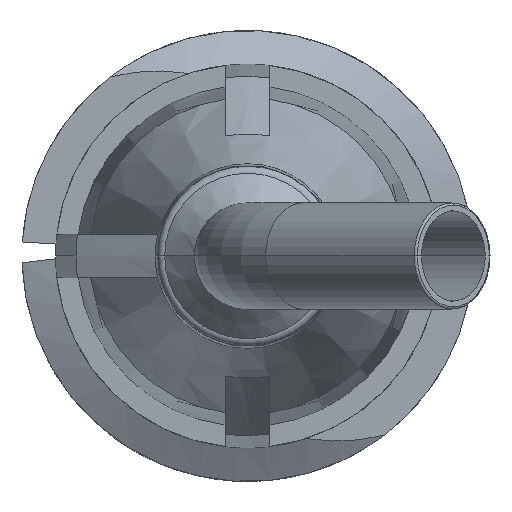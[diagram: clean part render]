
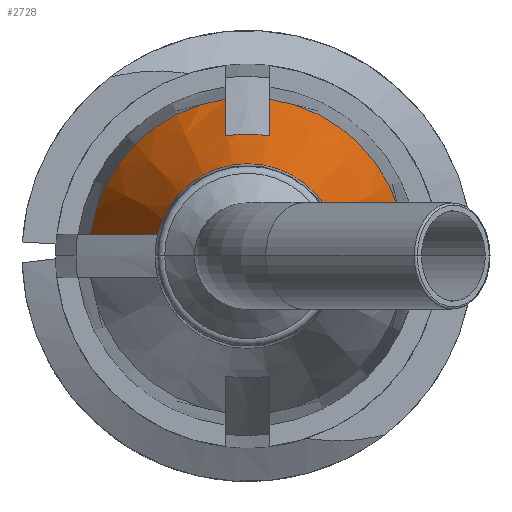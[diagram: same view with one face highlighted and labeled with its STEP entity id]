
A CAD part, front view. The second image highlights one B-rep face of the part: STEP entity #2728.
In plain terms, the highlighted conical face has half-angle 20 degrees and reference radius 2.745 mm.
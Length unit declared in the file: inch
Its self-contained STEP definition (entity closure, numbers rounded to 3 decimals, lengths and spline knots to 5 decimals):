
#2 = CARTESIAN_POINT ( 'NONE',  ( -0.09185, -0.44732, 0.015 ) ) ;
#41 = VERTEX_POINT ( 'NONE', #56 ) ;
#49 = EDGE_CURVE ( 'NONE', #627, #2486, #4468, .T. ) ;
#56 = CARTESIAN_POINT ( 'NONE',  ( -0.10703, -0.406, 0.015 ) ) ;
#278 = EDGE_CURVE ( 'NONE', #4648, #941, #4501, .T. ) ;
#364 = EDGE_CURVE ( 'NONE', #3518, #941, #4159, .T. ) ;
#366 = AXIS2_PLACEMENT_3D ( 'NONE', #4537, #3057, #1595 ) ;
#444 = CARTESIAN_POINT ( 'NONE',  ( -0.07664, -0.48863, 0.015 ) ) ;
#499 = VERTEX_POINT ( 'NONE', #3287 ) ;
#531 = CARTESIAN_POINT ( 'NONE',  ( 0.06119, -0.52985, 0.015 ) ) ;
#605 = CARTESIAN_POINT ( 'NONE',  ( 0., -0.52985, 0. ) ) ;
#627 = VERTEX_POINT ( 'NONE', #3384 ) ;
#699 = EDGE_CURVE ( 'NONE', #3763, #627, #4324, .T. ) ;
#710 = CARTESIAN_POINT ( 'NONE',  ( 0.015, -0.42866, 0.0987 ) ) ;
#714 = CARTESIAN_POINT ( 'NONE',  ( 0., -0.406, 0. ) ) ;
#734 = CARTESIAN_POINT ( 'NONE',  ( -0.015, -0.45131, 0.09036 ) ) ;
#739 = DIRECTION ( 'NONE',  ( -1., 0., 0. ) ) ;
#757 = CARTESIAN_POINT ( 'NONE',  ( -0.015, -0.42866, 0.0987 ) ) ;
#855 = AXIS2_PLACEMENT_3D ( 'NONE', #714, #4312, #739 ) ;
#925 = CONICAL_SURFACE ( 'NONE', #855, 0.10808, 0.349 ) ;
#941 = VERTEX_POINT ( 'NONE', #2553 ) ;
#1064 = AXIS2_PLACEMENT_3D ( 'NONE', #1917, #2269, #4513 ) ;
#1271 = ORIENTED_EDGE ( 'NONE', *, *, #2526, .F. ) ;
#1355 = B_SPLINE_CURVE_WITH_KNOTS ( 'NONE', 3,
 ( #1575, #444, #2, #4047 ),
 .UNSPECIFIED., .F., .F.,
 ( 4, 4 ),
 ( 0.00282, 0.00617 ),
 .UNSPECIFIED. ) ;
#1427 = ORIENTED_EDGE ( 'NONE', *, *, #699, .F. ) ;
#1575 = CARTESIAN_POINT ( 'NONE',  ( -0.06119, -0.52985, 0.015 ) ) ;
#1595 = DIRECTION ( 'NONE',  ( -1., 0., 0. ) ) ;
#1618 = CARTESIAN_POINT ( 'NONE',  ( 0.07664, -0.48863, 0.015 ) ) ;
#1638 = CARTESIAN_POINT ( 'NONE',  ( 0.09185, -0.44732, 0.015 ) ) ;
#1747 = CIRCLE ( 'NONE', #1064, 0.10808 ) ;
#1828 = CARTESIAN_POINT ( 'NONE',  ( 0.015, -0.406, 0.10703 ) ) ;
#1867 = B_SPLINE_CURVE_WITH_KNOTS ( 'NONE', 3,
 ( #2765, #4215, #710, #3601 ),
 .UNSPECIFIED., .F., .F.,
 ( 4, 4 ),
 ( 0.00247, 0.00431 ),
 .UNSPECIFIED. ) ;
#1917 = CARTESIAN_POINT ( 'NONE',  ( 0., -0.406, 0. ) ) ;
#2013 = ORIENTED_EDGE ( 'NONE', *, *, #4495, .F. ) ;
#2269 = DIRECTION ( 'NONE',  ( 0., 1., 0. ) ) ;
#2469 = ORIENTED_EDGE ( 'NONE', *, *, #4362, .F. ) ;
#2486 = VERTEX_POINT ( 'NONE', #4530 ) ;
#2526 = EDGE_CURVE ( 'NONE', #41, #3763, #1747, .T. ) ;
#2553 = CARTESIAN_POINT ( 'NONE',  ( 0.10703, -0.406, 0.015 ) ) ;
#2681 = DIRECTION ( 'NONE',  ( 0., 1., 0. ) ) ;
#2728 = ADVANCED_FACE ( 'NONE', ( #4681 ), #925, .T. ) ;
#2753 = CIRCLE ( 'NONE', #4122, 0.063 ) ;
#2765 = CARTESIAN_POINT ( 'NONE',  ( 0.015, -0.47395, 0.08198 ) ) ;
#2789 = ORIENTED_EDGE ( 'NONE', *, *, #4547, .T. ) ;
#2965 = CARTESIAN_POINT ( 'NONE',  ( -0.015, -0.406, 0.10703 ) ) ;
#3042 = DIRECTION ( 'NONE',  ( 1., 0., 0. ) ) ;
#3057 = DIRECTION ( 'NONE',  ( 0., 1., 0. ) ) ;
#3287 = CARTESIAN_POINT ( 'NONE',  ( -0.06119, -0.52985, 0.015 ) ) ;
#3349 = ORIENTED_EDGE ( 'NONE', *, *, #278, .T. ) ;
#3384 = CARTESIAN_POINT ( 'NONE',  ( -0.015, -0.47395, 0.08198 ) ) ;
#3518 = VERTEX_POINT ( 'NONE', #1828 ) ;
#3601 = CARTESIAN_POINT ( 'NONE',  ( 0.015, -0.406, 0.10703 ) ) ;
#3688 = CARTESIAN_POINT ( 'NONE',  ( 0., -0.47395, 0. ) ) ;
#3763 = VERTEX_POINT ( 'NONE', #2965 ) ;
#3772 = CARTESIAN_POINT ( 'NONE',  ( 0.10703, -0.406, 0.015 ) ) ;
#3815 = ORIENTED_EDGE ( 'NONE', *, *, #49, .F. ) ;
#3830 = CARTESIAN_POINT ( 'NONE',  ( -0.015, -0.406, 0.10703 ) ) ;
#3929 = CARTESIAN_POINT ( 'NONE',  ( 0.06119, -0.52985, 0.015 ) ) ;
#4047 = CARTESIAN_POINT ( 'NONE',  ( -0.10703, -0.406, 0.015 ) ) ;
#4122 = AXIS2_PLACEMENT_3D ( 'NONE', #605, #2681, #4160 ) ;
#4155 = AXIS2_PLACEMENT_3D ( 'NONE', #3688, #4508, #3042 ) ;
#4159 = CIRCLE ( 'NONE', #366, 0.10808 ) ;
#4160 = DIRECTION ( 'NONE',  ( -1., 0., 0. ) ) ;
#4215 = CARTESIAN_POINT ( 'NONE',  ( 0.015, -0.45131, 0.09036 ) ) ;
#4279 = ORIENTED_EDGE ( 'NONE', *, *, #364, .F. ) ;
#4301 = EDGE_LOOP ( 'NONE', ( #2013, #2789, #3349, #4279, #2469, #3815, #1427, #1271 ) ) ;
#4312 = DIRECTION ( 'NONE',  ( 0., 1., 0. ) ) ;
#4324 = B_SPLINE_CURVE_WITH_KNOTS ( 'NONE', 3,
 ( #3830, #757, #734, #4595 ),
 .UNSPECIFIED., .F., .F.,
 ( 4, 4 ),
 ( 0.00343, 0.00527 ),
 .UNSPECIFIED. ) ;
#4362 = EDGE_CURVE ( 'NONE', #2486, #3518, #1867, .T. ) ;
#4468 = CIRCLE ( 'NONE', #4155, 0.08335 ) ;
#4495 = EDGE_CURVE ( 'NONE', #499, #41, #1355, .T. ) ;
#4501 = B_SPLINE_CURVE_WITH_KNOTS ( 'NONE', 3,
 ( #531, #1618, #1638, #3772 ),
 .UNSPECIFIED., .F., .F.,
 ( 4, 4 ),
 ( 0.00282, 0.00617 ),
 .UNSPECIFIED. ) ;
#4508 = DIRECTION ( 'NONE',  ( 0., 1., 0. ) ) ;
#4513 = DIRECTION ( 'NONE',  ( -1., 0., 0. ) ) ;
#4530 = CARTESIAN_POINT ( 'NONE',  ( 0.015, -0.47395, 0.08198 ) ) ;
#4537 = CARTESIAN_POINT ( 'NONE',  ( 0., -0.406, 0. ) ) ;
#4547 = EDGE_CURVE ( 'NONE', #499, #4648, #2753, .T. ) ;
#4595 = CARTESIAN_POINT ( 'NONE',  ( -0.015, -0.47395, 0.08198 ) ) ;
#4648 = VERTEX_POINT ( 'NONE', #3929 ) ;
#4681 = FACE_OUTER_BOUND ( 'NONE', #4301, .T. ) ;
